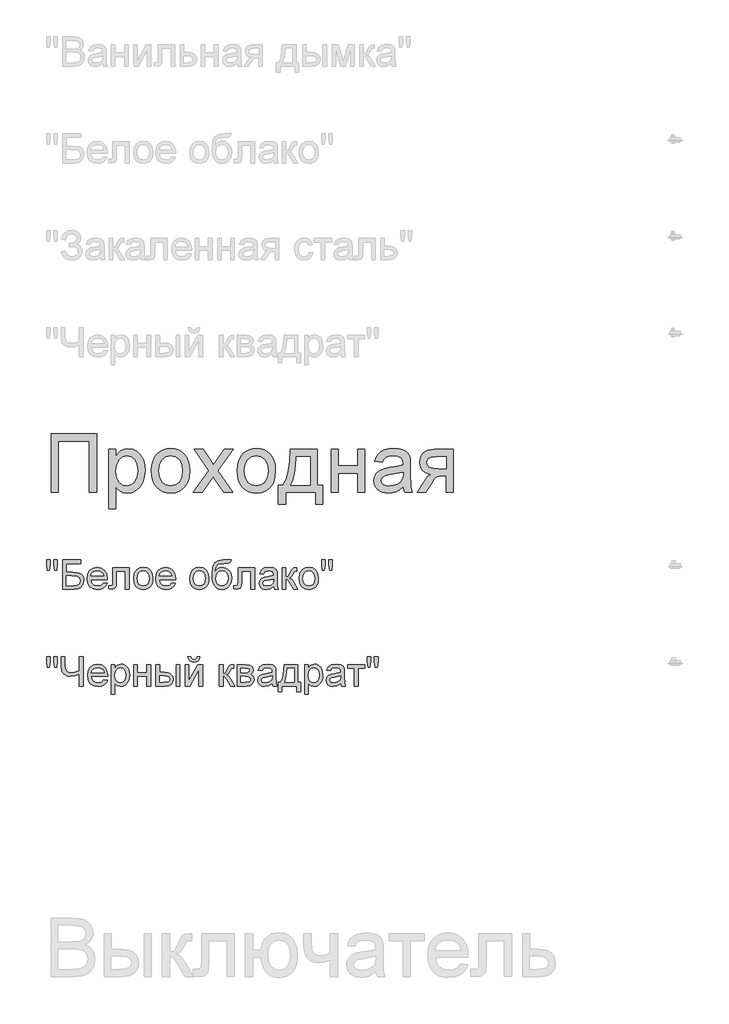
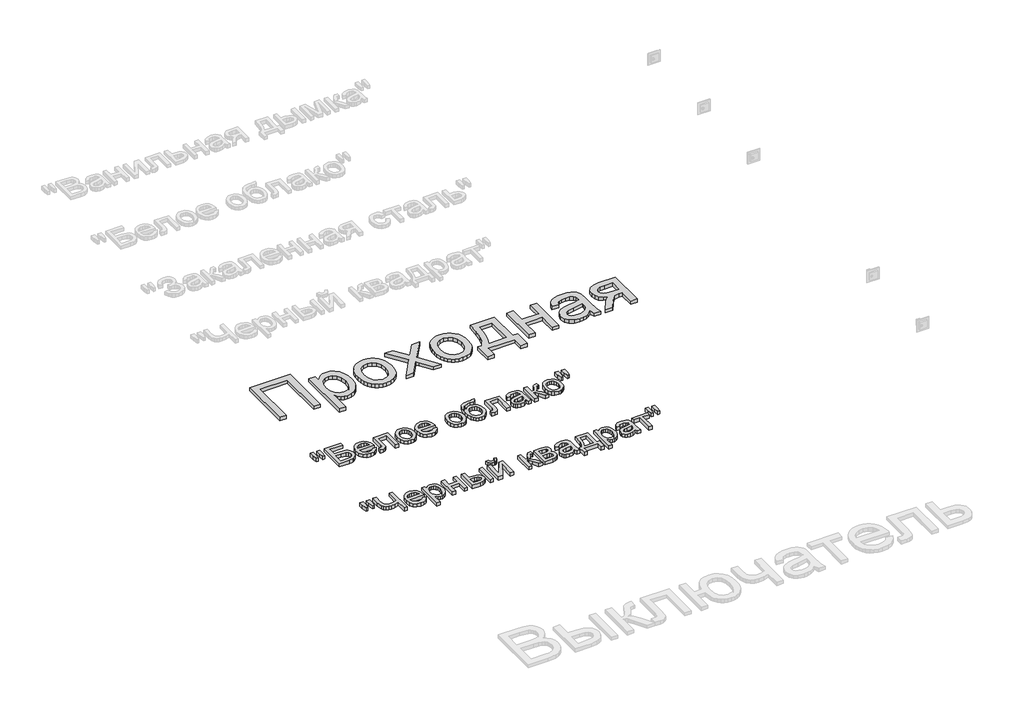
# One storey, part 138 of 168: 3 proxies.
"""IFC4 building model written with IfcOpenShell, lengths in millimetres."""

from ifc_helpers import new_model, si_unit, origin, origin_with_axes, place, context, project, spatial, polyline, outline, extrude, element, save

model = new_model("IFC4")

# Units and contexts
model_context = context("Model", 3, world=origin())
ifc_project = project(units=[si_unit("LENGTHUNIT", "METRE", prefix="MILLI")], contexts=[model_context])

# Site, building, storey
site = spatial("IfcSite", under=ifc_project)
building = spatial("IfcBuilding", under=site)
storey = spatial("IfcBuildingStorey", under=building, Name="Этаж 01", Elevation=0.0)

# Proxies
placement = place(None, origin())
element("IfcBuildingElementProxy", 1, Name="300 мм Arial 2", ObjectType="300 мм Arial 2", at=placement, inside=storey, context=model_context, shape_type="SweptSolid", body=[
    extrude(outline(polyline([(63599.0945017, -17047.0367511), (63834.5389786, -17047.0367511), (63834.5389786, -17348.4056816), (63796.8678623, -17348.4056816), (63796.8678623, -17084.7078674), (63636.765618, -17084.7078674), (63636.765618, -17348.4056816), (63599.0945017, -17348.4056816), (63599.0945017, -17047.0367511)])), origin_with_axes(), (0.0, 0.0, 1.0), 20.0),
    extrude(outline(polyline([(63895.7545426, -17433.1656933), (63895.7545426, -17127.0878733), (63933.4256589, -17127.0878733), (63933.4256589, -17164.0232256), (63945.7129175, -17145.8038698), (63959.4717041, -17132.7900442), (63975.5113591, -17124.9817488), (63994.6412229, -17122.3789837), (64020.117051, -17126.0210155), (64042.3923058, -17136.9471107), (64060.5288882, -17154.4950819), (64073.588699, -17178.0027414), (64081.4797678, -17205.7594379), (64084.1101241, -17236.0545202), (64081.139477, -17268.271786), (64072.2275357, -17297.0861432), (64057.6594086, -17321.0352611), (64037.7202045, -17338.6568087), (64014.4976536, -17349.5001305), (63990.0794861, -17353.1145711), (63972.7614412, -17350.695747), (63957.3012004, -17343.4392746), (63944.0666456, -17332.4855882), (63933.4256589, -17318.975122), (63933.4256589, -17433.1656933), (63895.7545426, -17433.1656933)]), holes=[polyline([(63933.4256589, -17239.512611), (63937.499952, -17273.2841782), (63949.7228313, -17296.9022022), (63967.7582461, -17310.8081417), (63989.2701457, -17315.4434548), (64011.1315333, -17310.6425948), (64029.6268006, -17296.2400147), (64042.235956, -17271.7574679), (64046.4390078, -17236.7167078), (64042.3371235, -17203.1290817), (64030.0314708, -17179.1799638), (64012.0236471, -17164.832566), (63990.8152501, -17160.0501), (63969.5240797, -17165.1360686), (63950.8264772, -17180.3939744), (63937.7758635, -17205.3455707), (63933.4256589, -17239.512611)])]), origin_with_axes(), (0.0, 0.0, 1.0), 20.0),
    extrude(outline(polyline([(64117.0723509, -17237.7467774), (64119.1094974, -17209.0841715), (64125.2209371, -17184.385494), (64135.4066698, -17163.6507451), (64149.6666956, -17146.8799246), (64164.0232905, -17136.160763), (64179.8698074, -17128.504219), (64197.2062465, -17123.9102925), (64216.0326076, -17122.3789837), (64236.815641, -17124.2436856), (64255.6075132, -17129.8377912), (64272.4082241, -17139.1613005), (64287.2177736, -17152.2142135), (64299.3049964, -17168.5550719), (64307.938727, -17187.7424172), (64313.1189654, -17209.7762495), (64314.8457115, -17234.6565687), (64311.7922909, -17272.7139611), (64302.6320292, -17301.6846682), (64287.6316409, -17323.3805088), (64267.0578403, -17339.6133019), (64242.6212788, -17349.7392538), (64216.0326076, -17353.1145711), (64194.9460715, -17351.256767), (64175.9794553, -17345.6833548), (64159.1327592, -17336.3943344), (64144.4059831, -17323.3897059), (64132.447519, -17306.8901984), (64123.9057589, -17287.1165412), (64118.7807029, -17264.0687342), (64117.0723509, -17237.7467774)]), holes=[polyline([(64154.7434672, -17237.673201), (64159.1028688, -17271.7666649), (64172.1810737, -17296.0560737), (64191.8627605, -17310.5966095), (64216.0326076, -17315.4434548), (64240.0920901, -17310.5690184), (64259.7369886, -17295.9457091), (64272.8151935, -17271.3344036), (64277.1745952, -17236.4959786), (64272.7876024, -17203.3957961), (64259.626624, -17179.4374812), (64239.9541343, -17164.8969453), (64216.0326076, -17160.0501), (64191.8627605, -17164.8785512), (64172.1810737, -17179.3639048), (64159.1028688, -17203.5981312), (64154.7434672, -17237.673201)])]), origin_with_axes(), (0.0, 0.0, 1.0), 20.0),
    extrude(outline(polyline([(64333.6812696, -17348.4056816), (64414.1738502, -17237.1581662), (64338.3901592, -17127.0878733), (64383.713221, -17127.0878733), (64420.2806913, -17180.0628806), (64437.3504159, -17205.0788562), (64452.1392721, -17184.6246173), (64493.7835139, -17127.0878733), (64539.1065757, -17127.0878733), (64459.496912, -17237.1581662), (64536.1635198, -17348.4056816), (64490.840458, -17348.4056816), (64444.7080558, -17281.5247348), (64436.2467699, -17269.3110526), (64379.0043314, -17348.4056816), (64333.6812696, -17348.4056816)])), origin_with_axes(), (0.0, 0.0, 1.0), 20.0),
    extrude(outline(polyline([(64559.7079675, -17237.7467774), (64561.745114, -17209.0841715), (64567.8565537, -17184.385494), (64578.0422864, -17163.6507451), (64592.3023122, -17146.8799246), (64606.6589071, -17136.160763), (64622.505424, -17128.504219), (64639.8418631, -17123.9102925), (64658.6682242, -17122.3789837), (64679.4512576, -17124.2436856), (64698.2431298, -17129.8377912), (64715.0438407, -17139.1613005), (64729.8533902, -17152.2142135), (64741.940613, -17168.5550719), (64750.5743436, -17187.7424172), (64755.754582, -17209.7762495), (64757.4813281, -17234.6565687), (64754.4279075, -17272.7139611), (64745.2676458, -17301.6846682), (64730.2672575, -17323.3805088), (64709.6934569, -17339.6133019), (64685.2568954, -17349.7392538), (64658.6682242, -17353.1145711), (64637.5816881, -17351.256767), (64618.6150719, -17345.6833548), (64601.7683758, -17336.3943344), (64587.0415997, -17323.3897059), (64575.0831356, -17306.8901984), (64566.5413755, -17287.1165412), (64561.4163195, -17264.0687342), (64559.7079675, -17237.7467774)]), holes=[polyline([(64597.3790838, -17237.673201), (64601.7384854, -17271.7666649), (64614.8166903, -17296.0560737), (64634.4983771, -17310.5966095), (64658.6682242, -17315.4434548), (64682.7277067, -17310.5690184), (64702.3726052, -17295.9457091), (64715.4508101, -17271.3344036), (64719.8102118, -17236.4959786), (64715.423219, -17203.3957961), (64702.2622406, -17179.4374812), (64682.5897509, -17164.8969453), (64658.6682242, -17160.0501), (64634.4983771, -17164.8785512), (64614.8166903, -17179.3639048), (64601.7384854, -17203.5981312), (64597.3790838, -17237.673201)])]), origin_with_axes(), (0.0, 0.0, 1.0), 20.0),
    extrude(outline(polyline([(64832.8235607, -17127.0878733), (64974.0902468, -17127.0878733), (64974.0902468, -17310.7345653), (65002.3435841, -17310.7345653), (65002.3435841, -17409.6212456), (64964.6724678, -17409.6212456), (64964.6724678, -17348.4056816), (64809.279113, -17348.4056816), (64809.279113, -17409.6212456), (64771.6079967, -17409.6212456), (64771.6079967, -17310.7345653), (64795.1524444, -17310.7345653), (64812.2681542, -17279.8048865), (64824.2519102, -17238.8872116), (64831.1037124, -17187.9815405), (64832.8235607, -17127.0878733)]), holes=[polyline([(64865.7857875, -17164.7589896), (64862.6955787, -17210.8821947), (64856.9566196, -17250.5858591), (64848.5689101, -17283.8699826), (64837.5324502, -17310.7345653), (64936.4191305, -17310.7345653), (64936.4191305, -17164.7589896), (64865.7857875, -17164.7589896)])]), origin_with_axes(), (0.0, 0.0, 1.0), 20.0),
    extrude(outline(polyline([(65044.7235899, -17127.0878733), (65082.3947062, -17127.0878733), (65082.3947062, -17211.847885), (65181.2813865, -17211.847885), (65181.2813865, -17127.0878733), (65218.9525028, -17127.0878733), (65218.9525028, -17348.4056816), (65181.2813865, -17348.4056816), (65181.2813865, -17249.5190013), (65082.3947062, -17249.5190013), (65082.3947062, -17348.4056816), (65044.7235899, -17348.4056816), (65044.7235899, -17127.0878733)])), origin_with_axes(), (0.0, 0.0, 1.0), 20.0),
    extrude(outline(polyline([(65416.7258634, -17320.1523443), (65398.7272368, -17335.584994), (65380.1951813, -17345.6833548), (65360.7066326, -17351.256767), (65339.8385264, -17353.1145711), (65308.3570247, -17348.6448049), (65285.1344738, -17335.2355061), (65270.8146671, -17314.8732377), (65266.0413982, -17289.5445623), (65267.84402, -17273.9279716), (65273.2518853, -17259.7461207), (65281.5936095, -17247.6060149), (65292.1978081, -17238.1146594), (65318.5749471, -17225.7538244), (65351.1692919, -17220.0884417), (65389.6865368, -17214.1287533), (65416.5051342, -17207.1389954), (65416.7258634, -17198.7512859), (65414.1322954, -17181.9390788), (65406.3515912, -17170.9394071), (65388.9507728, -17162.7724268), (65364.7073493, -17160.0501), (65342.2665476, -17161.8619189), (65326.5947746, -17167.2973753), (65315.9078026, -17177.3497509), (65308.421404, -17193.0123268), (65270.7502877, -17188.3034373), (65277.2893902, -17167.7020455), (65287.0474601, -17151.5152378), (65300.9350054, -17139.1360086), (65319.8625341, -17129.9573528), (65343.0115086, -17124.273576), (65369.5633916, -17122.3789837), (65395.0300228, -17124.0528468), (65415.2175472, -17129.074436), (65430.4386648, -17136.625214), (65441.0060751, -17145.8866432), (65448.0142271, -17157.3369703), (65452.5575698, -17171.4544419), (65454.3969797, -17204.4166687), (65454.3969797, -17251.2848348), (65456.3099661, -17316.7310418), (65463.8147588, -17348.4056816), (65426.1436425, -17348.4056816), (65416.7258634, -17320.1523443)]), holes=[polyline([(65416.7258634, -17244.8101117), (65355.9517578, -17256.3616064), (65323.541354, -17262.4684475), (65308.8628624, -17272.4012614), (65303.7125145, -17286.895812), (65306.5176147, -17298.0978187), (65314.9329154, -17307.2764745), (65328.7744754, -17313.4017097), (65347.8583539, -17315.4434548), (65368.0918637, -17313.1901776), (65385.9709286, -17306.4303459), (65400.4654792, -17296.4699409), (65410.5454459, -17284.6149436), (65415.0152121, -17272.4012614), (65416.5051342, -17255.4786896), (65416.7258634, -17244.8101117)])]), origin_with_axes(), (0.0, 0.0, 1.0), 20.0),
    extrude(outline(polyline([(65675.714788, -17127.0878733), (65675.714788, -17348.4056816), (65638.0436717, -17348.4056816), (65638.0436717, -17263.6456699), (65617.5158564, -17263.6456699), (65589.5568248, -17268.4281358), (65578.3916062, -17278.8575904), (65563.2900503, -17300.5810222), (65533.2708795, -17348.4056816), (65489.7136513, -17348.4056816), (65527.5319204, -17287.9258816), (65544.233763, -17266.2208438), (65559.6112304, -17256.5823356), (65533.8594907, -17248.6912668), (65515.7596965, -17233.7000755), (65505.0543305, -17213.7608713), (65501.4858751, -17191.025764), (65506.3603116, -17165.2372362), (65520.9836209, -17144.8197854), (65544.8407682, -17131.5208513), (65577.4167189, -17127.0878733), (65675.714788, -17127.0878733)]), holes=[polyline([(65638.0436717, -17164.7589896), (65588.3796024, -17164.7589896), (65562.7290303, -17166.9386904), (65548.1701003, -17173.4777929), (65541.4102686, -17182.9415572), (65539.1569914, -17193.8952436), (65542.4771264, -17208.2518385), (65552.4375314, -17218.2122435), (65570.8408283, -17224.033976), (65599.4896386, -17225.9745536), (65638.0436717, -17225.9745536), (65638.0436717, -17164.7589896)])]), origin_with_axes(), (0.0, 0.0, 1.0), 20.0),
])
element("IfcBuildingElementProxy", 2, Name="150", ObjectType="150", at=placement, inside=storey, context=model_context, shape_type="SweptSolid", body=[
    extrude(outline(polyline([(63580.1485789, -17751.873446), (63575.550054, -17722.7739802), (63575.550054, -17697.7212163), (63594.3856121, -17697.7212163), (63594.3856121, -17722.7739802), (63590.2653338, -17751.873446), (63580.1485789, -17751.873446)])), origin_with_axes(), (0.0, 0.0, 1.0), 20.0),
    extrude(outline(polyline([(63617.7093306, -17751.873446), (63613.2211703, -17722.7739802), (63613.2211703, -17697.7212163), (63632.0567284, -17697.7212163), (63632.0567284, -17722.7739802), (63627.6421445, -17751.873446), (63617.7093306, -17751.873446)])), origin_with_axes(), (0.0, 0.0, 1.0), 20.0),
    extrude(outline(polyline([(63657.9556209, -17697.7212163), (63752.1334117, -17697.7212163), (63752.1334117, -17716.5567745), (63676.791179, -17716.5567745), (63676.791179, -17761.2912251), (63712.0710624, -17761.2912251), (63743.157091, -17765.1171979), (63753.5589544, -17770.6446248), (63761.6615553, -17779.5749603), (63766.8762826, -17791.0712726), (63768.614525, -17804.2966303), (63763.6665122, -17825.7625448), (63748.8960501, -17842.0781113), (63735.6247071, -17846.823789), (63715.4555767, -17848.4056816), (63657.9556209, -17848.4056816), (63657.9556209, -17697.7212163)]), holes=[polyline([(63676.791179, -17829.5701234), (63717.1478339, -17829.5701234), (63731.4124583, -17828.015822), (63741.6119866, -17823.3529177), (63747.7372218, -17815.5814105), (63749.7789669, -17804.7013005), (63745.1068655, -17789.9492325), (63732.102237, -17782.0765578), (63703.7201411, -17780.1267833), (63676.791179, -17780.1267833), (63676.791179, -17829.5701234)])]), origin_with_axes(), (0.0, 0.0, 1.0), 20.0),
    extrude(outline(polyline([(63869.6349209, -17815.4434548), (63888.1025971, -17817.7978996), (63881.4485315, -17831.713036), (63870.8305374, -17842.1148995), (63856.4877381, -17848.5988196), (63838.6592569, -17850.7601263), (63816.5587461, -17847.0307226), (63799.5534008, -17835.8425114), (63788.710079, -17817.9220597), (63785.0956384, -17793.9959345), (63788.7468672, -17769.2650674), (63799.7005536, -17750.7698), (63816.4759726, -17739.2366995), (63837.5923991, -17735.3923327), (63858.0512366, -17739.2275025), (63874.3989927, -17750.7330118), (63885.1181544, -17769.191491), (63888.6912083, -17793.8855699), (63888.5808437, -17798.9623414), (63803.9311966, -17798.9623414), (63807.1915508, -17813.0614189), (63814.7653213, -17823.4264941), (63825.6960151, -17829.8000497), (63839.0271389, -17831.9245682), (63857.4948151, -17827.9882308), (63869.6349209, -17815.4434548)]), holes=[polyline([(63803.9311966, -17780.1267833), (63869.8556501, -17780.1267833), (63867.3080673, -17770.1755753), (63862.3140692, -17763.0570587), (63851.3327917, -17756.4351828), (63837.5188227, -17754.2278908), (63824.8222954, -17755.9891259), (63814.3238629, -17761.272831), (63807.0260039, -17769.5087892), (63803.9311966, -17780.1267833)])]), origin_with_axes(), (0.0, 0.0, 1.0), 20.0),
    extrude(outline(polyline([(63916.9445455, -17737.7467774), (64001.7045572, -17737.7467774), (64001.7045572, -17848.295317), (63982.868999, -17848.295317), (63982.868999, -17756.5823356), (63935.7801036, -17756.5823356), (63935.7801036, -17809.3734019), (63934.5109108, -17833.72719), (63927.539547, -17844.0094917), (63911.0584336, -17848.4056816), (63895.7545426, -17847.4491884), (63895.7545426, -17829.5701234), (63904.1790403, -17829.5701234), (63912.6955084, -17828.4112951), (63916.0984169, -17824.7324752), (63916.9445455, -17808.3065441), (63916.9445455, -17737.7467774)])), origin_with_axes(), (0.0, 0.0, 1.0), 20.0),
    extrude(outline(polyline([(64025.2490049, -17793.0762295), (64029.323298, -17766.3955878), (64041.5461773, -17747.6428031), (64056.6477332, -17738.4549503), (64074.7291332, -17735.3923327), (64094.516586, -17739.1217364), (64110.3217163, -17750.3099476), (64120.6821929, -17768.0740494), (64124.1356852, -17791.5311251), (64122.6089749, -17810.5598213), (64118.0288441, -17825.0451749), (64110.5286499, -17835.8930952), (64100.2417496, -17844.0094917), (64088.0234688, -17849.0724677), (64074.7291332, -17850.7601263), (64054.7025571, -17847.0445182), (64038.915821, -17835.8976937), (64028.6657089, -17817.7611114), (64025.2490049, -17793.0762295)]), holes=[polyline([(64044.084563, -17793.0394413), (64046.2642638, -17810.0861732), (64052.8033663, -17822.2308776), (64062.6442097, -17829.5011455), (64074.7291332, -17831.9245682), (64086.7588745, -17829.48735), (64096.5813237, -17822.1756953), (64103.1204262, -17809.8700426), (64105.300127, -17792.4508301), (64103.1066306, -17775.9007388), (64096.5261414, -17763.9215814), (64086.6898966, -17756.6513134), (64074.7291332, -17754.2278908), (64062.6442097, -17756.6421164), (64052.8033663, -17763.8847932), (64046.2642638, -17776.0019064), (64044.084563, -17793.0394413)])]), origin_with_axes(), (0.0, 0.0, 1.0), 20.0),
    extrude(outline(polyline([(64222.8016363, -17815.4434548), (64241.2693124, -17817.7978996), (64234.6152469, -17831.713036), (64223.9972528, -17842.1148995), (64209.6544535, -17848.5988196), (64191.8259723, -17850.7601263), (64169.7254614, -17847.0307226), (64152.7201162, -17835.8425114), (64141.8767944, -17817.9220597), (64138.2623538, -17793.9959345), (64141.9135826, -17769.2650674), (64152.867269, -17750.7698), (64169.642688, -17739.2366995), (64190.7591145, -17735.3923327), (64211.217952, -17739.2275025), (64227.5657081, -17750.7330118), (64238.2848698, -17769.191491), (64241.8579236, -17793.8855699), (64241.747559, -17798.9623414), (64157.0979119, -17798.9623414), (64160.3582661, -17813.0614189), (64167.9320367, -17823.4264941), (64178.8627305, -17829.8000497), (64192.1938543, -17831.9245682), (64210.6615304, -17827.9882308), (64222.8016363, -17815.4434548)]), holes=[polyline([(64157.0979119, -17780.1267833), (64223.0223655, -17780.1267833), (64220.4747827, -17770.1755753), (64215.4807846, -17763.0570587), (64204.499507, -17756.4351828), (64190.6855381, -17754.2278908), (64177.9890107, -17755.9891259), (64167.4905783, -17761.272831), (64160.1927192, -17769.5087892), (64157.0979119, -17780.1267833)])]), origin_with_axes(), (0.0, 0.0, 1.0), 20.0),
    extrude(outline(polyline([(64314.8457115, -17793.0762295), (64318.9200046, -17766.3955878), (64331.1428839, -17747.6428031), (64346.2444398, -17738.4549503), (64364.3258398, -17735.3923327), (64384.1132926, -17739.1217364), (64399.9184229, -17750.3099476), (64410.2788995, -17768.0740494), (64413.7323918, -17791.5311251), (64412.2056815, -17810.5598213), (64407.6255507, -17825.0451749), (64400.1253565, -17835.8930952), (64389.8384562, -17844.0094917), (64377.6201754, -17849.0724677), (64364.3258398, -17850.7601263), (64344.2992637, -17847.0445182), (64328.5125276, -17835.8976937), (64318.2624155, -17817.7611114), (64314.8457115, -17793.0762295)]), holes=[polyline([(64333.6812696, -17793.0394413), (64335.8609704, -17810.0861732), (64342.4000729, -17822.2308776), (64352.2409163, -17829.5011455), (64364.3258398, -17831.9245682), (64376.3555811, -17829.48735), (64386.1780303, -17822.1756953), (64392.7171328, -17809.8700426), (64394.8968336, -17792.4508301), (64392.7033372, -17775.9007388), (64386.122848, -17763.9215814), (64376.2866032, -17756.6513134), (64364.3258398, -17754.2278908), (64352.2409163, -17756.6421164), (64342.4000729, -17763.8847932), (64335.8609704, -17776.0019064), (64333.6812696, -17793.0394413)])]), origin_with_axes(), (0.0, 0.0, 1.0), 20.0),
    extrude(outline(polyline([(64512.6190721, -17695.3667716), (64529.1001855, -17695.3667716), (64524.2441431, -17710.0636573), (64514.6424231, -17715.3795521), (64491.576222, -17716.5567745), (64460.5085875, -17720.897782), (64453.3808738, -17726.5447707), (64448.5892108, -17734.8037215), (64444.560903, -17759.4150269), (64460.8764695, -17741.3888092), (64470.7954878, -17736.8914518), (64481.9009255, -17735.3923327), (64501.4998388, -17739.2045098), (64517.401538, -17750.6410414), (64527.9413572, -17768.5798871), (64531.4546302, -17791.8990071), (64529.7117893, -17809.8792396), (64524.4832664, -17824.3094109), (64507.9469707, -17843.8623389), (64496.6529935, -17849.0356795), (64481.9009255, -17850.7601263), (64464.9001788, -17848.5390388), (64452.1576662, -17841.8757762), (64442.7812738, -17831.7498242), (64435.8788879, -17819.1406689), (64431.6298508, -17800.1533594), (64430.2135052, -17770.8929452), (64433.786559, -17734.7531377), (64444.5057207, -17712.7124076), (64462.6377045, -17701.4690142), (64488.449225, -17697.7212163), (64509.4184987, -17697.2981521), (64512.6190721, -17695.3667716)]), holes=[polyline([(64512.6190721, -17791.3103959), (64510.577327, -17776.48935), (64504.4520918, -17764.6205572), (64494.6112484, -17756.8260574), (64481.4226789, -17754.2278908), (64467.6730893, -17756.9732102), (64457.473561, -17765.2091684), (64451.1551877, -17778.0344544), (64449.0490633, -17794.5477575), (64451.3759169, -17810.5552228), (64458.3564778, -17822.304454), (64468.7491442, -17829.5195396), (64481.3123143, -17831.9245682), (64493.9398638, -17829.1424606), (64503.937057, -17820.7961378), (64510.4485683, -17807.8604872), (64512.6190721, -17791.3103959)])]), origin_with_axes(), (0.0, 0.0, 1.0), 20.0),
    extrude(outline(polyline([(64564.416857, -17737.7467774), (64649.1768687, -17737.7467774), (64649.1768687, -17848.295317), (64630.3413105, -17848.295317), (64630.3413105, -17756.5823356), (64583.2524152, -17756.5823356), (64583.2524152, -17809.3734019), (64581.9832223, -17833.72719), (64575.0118585, -17844.0094917), (64558.5307451, -17848.4056816), (64543.2268541, -17847.4491884), (64543.2268541, -17829.5701234), (64551.6513518, -17829.5701234), (64560.16782, -17828.4112951), (64563.5707284, -17824.7324752), (64564.416857, -17808.3065441), (64564.416857, -17737.7467774)])), origin_with_axes(), (0.0, 0.0, 1.0), 20.0),
    extrude(outline(polyline([(64748.063549, -17834.279013), (64729.7982079, -17847.0445182), (64709.6198805, -17850.7601263), (64693.8791296, -17848.5252432), (64682.2678542, -17841.8205939), (64675.1079508, -17831.6394596), (64672.7213164, -17818.975122), (64676.3265599, -17804.0759012), (64685.7995213, -17793.2601705), (64698.9880908, -17787.079753), (64715.2852632, -17784.2470616), (64747.9531844, -17777.7723385), (64748.063549, -17773.5784838), (64746.766765, -17765.1723802), (64742.8764129, -17759.6725443), (64734.1760037, -17755.5890542), (64722.0542919, -17754.2278908), (64702.9980046, -17757.8515285), (64693.9113193, -17770.7090042), (64675.0757612, -17768.3545594), (64683.2243473, -17749.9604597), (64699.6318843, -17739.1815172), (64724.4823131, -17735.3923327), (64747.3093909, -17738.7400588), (64760.2036548, -17747.1461624), (64765.9794022, -17759.9300617), (64766.8991071, -17776.4111751), (64766.8991071, -17799.8452582), (64767.8556003, -17832.5683617), (64771.6079967, -17848.4056816), (64752.7724385, -17848.4056816), (64748.063549, -17834.279013)]), holes=[polyline([(64748.063549, -17796.6078966), (64717.6764962, -17802.383644), (64701.4712943, -17805.4370645), (64694.1320485, -17810.4034715), (64691.5568745, -17817.6507468), (64697.167075, -17827.841078), (64713.6297942, -17831.9245682), (64732.6860816, -17827.4180137), (64744.9733402, -17816.5103126), (64747.9531844, -17801.9421856), (64748.063549, -17796.6078966)])]), origin_with_axes(), (0.0, 0.0, 1.0), 20.0),
    extrude(outline(polyline([(64792.7979996, -17737.7467774), (64811.6335578, -17737.7467774), (64811.6335578, -17784.8356728), (64824.2519102, -17781.4511584), (64834.5893943, -17761.7326835), (64843.1794388, -17744.7181412), (64850.7578079, -17739.1815172), (64864.5349887, -17737.7467774), (64868.1402322, -17737.7467774), (64868.1402322, -17756.6927002), (64863.0634607, -17756.5823356), (64853.8664108, -17758.5688983), (64847.3916877, -17770.9665216), (64839.7949245, -17784.3758203), (64829.1447407, -17790.9425139), (64841.0273292, -17798.2725627), (64852.6891884, -17813.7144094), (64872.8491218, -17848.4056816), (64851.4383896, -17848.4056816), (64831.6831265, -17814.4501734), (64821.7503126, -17800.0843815), (64811.6335578, -17796.6078966), (64811.6335578, -17848.4056816), (64792.7979996, -17848.4056816), (64792.7979996, -17737.7467774)])), origin_with_axes(), (0.0, 0.0, 1.0), 20.0),
    extrude(outline(polyline([(64879.9124561, -17793.0762295), (64883.9867492, -17766.3955878), (64896.2096285, -17747.6428031), (64911.3111844, -17738.4549503), (64929.3925844, -17735.3923327), (64949.1800372, -17739.1217364), (64964.9851674, -17750.3099476), (64975.3456441, -17768.0740494), (64978.7991364, -17791.5311251), (64977.2724261, -17810.5598213), (64972.6922952, -17825.0451749), (64965.1921011, -17835.8930952), (64954.9052008, -17844.0094917), (64942.68692, -17849.0724677), (64929.3925844, -17850.7601263), (64909.3660083, -17847.0445182), (64893.5792722, -17835.8976937), (64883.3291601, -17817.7611114), (64879.9124561, -17793.0762295)]), holes=[polyline([(64898.7480142, -17793.0394413), (64900.927715, -17810.0861732), (64907.4668175, -17822.2308776), (64917.3076609, -17829.5011455), (64929.3925844, -17831.9245682), (64941.4223257, -17829.48735), (64951.2447749, -17822.1756953), (64957.7838774, -17809.8700426), (64959.9635782, -17792.4508301), (64957.7700818, -17775.9007388), (64951.1895926, -17763.9215814), (64941.3533478, -17756.6513134), (64929.3925844, -17754.2278908), (64917.3076609, -17756.6421164), (64907.4668175, -17763.8847932), (64900.927715, -17776.0019064), (64898.7480142, -17793.0394413)])]), origin_with_axes(), (0.0, 0.0, 1.0), 20.0),
    extrude(outline(polyline([(64999.8787747, -17751.873446), (64995.2802498, -17722.7739802), (64995.2802498, -17697.7212163), (65014.1158079, -17697.7212163), (65014.1158079, -17722.7739802), (65009.9955296, -17751.873446), (64999.8787747, -17751.873446)])), origin_with_axes(), (0.0, 0.0, 1.0), 20.0),
    extrude(outline(polyline([(65037.4395264, -17751.873446), (65032.9513661, -17722.7739802), (65032.9513661, -17697.7212163), (65051.7869242, -17697.7212163), (65051.7869242, -17722.7739802), (65047.3723403, -17751.873446), (65037.4395264, -17751.873446)])), origin_with_axes(), (0.0, 0.0, 1.0), 20.0),
])
element("IfcBuildingElementProxy", 3, Name="150", ObjectType="150", at=placement, inside=storey, context=model_context, shape_type="SweptSolid", body=[
    extrude(outline(polyline([(63580.1485789, -18251.873446), (63575.550054, -18222.7739802), (63575.550054, -18197.7212163), (63594.3856121, -18197.7212163), (63594.3856121, -18222.7739802), (63590.2653338, -18251.873446), (63580.1485789, -18251.873446)])), origin_with_axes(), (0.0, 0.0, 1.0), 20.0),
    extrude(outline(polyline([(63617.7093306, -18251.873446), (63613.2211703, -18222.7739802), (63613.2211703, -18197.7212163), (63632.0567284, -18197.7212163), (63632.0567284, -18222.7739802), (63627.6421445, -18251.873446), (63617.7093306, -18251.873446)])), origin_with_axes(), (0.0, 0.0, 1.0), 20.0),
    extrude(outline(polyline([(63763.9056355, -18348.4056816), (63745.0700773, -18348.4056816), (63745.0700773, -18288.0730344), (63720.0908899, -18296.2400147), (63698.4226404, -18298.9623414), (63683.7395502, -18297.0999388), (63670.886673, -18291.512731), (63660.926268, -18283.0606422), (63654.9205944, -18272.6035965), (63650.8922866, -18242.6028198), (63650.8922866, -18197.7212163), (63669.7278447, -18197.7212163), (63669.7278447, -18240.064434), (63671.990319, -18260.4313009), (63678.7777418, -18272.3828673), (63688.7381468, -18278.1908043), (63700.5195677, -18280.1267833), (63722.2521966, -18277.7907326), (63745.0700773, -18270.7825806), (63745.0700773, -18197.7212163), (63763.9056355, -18197.7212163), (63763.9056355, -18348.4056816)])), origin_with_axes(), (0.0, 0.0, 1.0), 20.0),
    extrude(outline(polyline([(63871.9893657, -18315.4434548), (63890.4570418, -18317.7978996), (63883.8029763, -18331.713036), (63873.1849822, -18342.1148995), (63858.8421829, -18348.5988196), (63841.0137017, -18350.7601263), (63818.9131908, -18347.0307226), (63801.9078456, -18335.8425114), (63791.0645238, -18317.9220597), (63787.4500832, -18293.9959345), (63791.101312, -18269.2650674), (63802.0549984, -18250.7698), (63818.8304174, -18239.2366995), (63839.9468439, -18235.3923327), (63860.4056814, -18239.2275025), (63876.7534375, -18250.7330118), (63887.4725992, -18269.191491), (63891.045653, -18293.8855699), (63890.9352884, -18298.9623414), (63806.2856413, -18298.9623414), (63809.5459955, -18313.0614189), (63817.1197661, -18323.4264941), (63828.0504599, -18329.8000497), (63841.3815837, -18331.9245682), (63859.8492598, -18327.9882308), (63871.9893657, -18315.4434548)]), holes=[polyline([(63806.2856413, -18280.1267833), (63872.2100949, -18280.1267833), (63869.6625121, -18270.1755753), (63864.668514, -18263.0570587), (63853.6872364, -18256.4351828), (63839.8732675, -18254.2278908), (63827.1767401, -18255.9891259), (63816.6783077, -18261.272831), (63809.3804486, -18269.5087892), (63806.2856413, -18280.1267833)])]), origin_with_axes(), (0.0, 0.0, 1.0), 20.0),
    extrude(outline(polyline([(63909.8812112, -18390.7856874), (63909.8812112, -18237.7467774), (63928.7167693, -18237.7467774), (63928.7167693, -18256.2144536), (63941.739792, -18240.5978629), (63959.3245513, -18235.3923327), (63972.0624654, -18237.2133485), (63983.2000928, -18242.6763962), (63992.268384, -18251.4503817), (63998.7982894, -18263.2042115), (64004.0590019, -18292.2301009), (64002.5736784, -18308.3387338), (63998.1177077, -18322.7459124), (63990.8336442, -18334.7204713), (63980.8640422, -18343.5312451), (63969.2527667, -18348.952906), (63957.043683, -18350.7601263), (63940.6545401, -18345.9224781), (63928.7167693, -18333.6904018), (63928.7167693, -18390.7856874), (63909.8812112, -18390.7856874)]), holes=[polyline([(63928.7167693, -18293.9591463), (63930.7539159, -18310.8449299), (63936.8653555, -18322.6539419), (63945.8830629, -18329.6069116), (63956.6390128, -18331.9245682), (63967.5697066, -18329.5241382), (63976.8173402, -18322.3228481), (63983.1219179, -18310.0815747), (63985.2234438, -18292.5611947), (63983.1725017, -18275.7673816), (63977.0196753, -18263.7928227), (63968.0157635, -18256.6191238), (63957.411565, -18254.2278908), (63946.7659797, -18256.7708751), (63937.4171785, -18264.399828), (63930.8918716, -18276.8756261), (63928.7167693, -18293.9591463)])]), origin_with_axes(), (0.0, 0.0, 1.0), 20.0),
    extrude(outline(polyline([(64025.2490049, -18237.7467774), (64044.084563, -18237.7467774), (64044.084563, -18280.1267833), (64093.5279032, -18280.1267833), (64093.5279032, -18237.7467774), (64112.3634613, -18237.7467774), (64112.3634613, -18348.4056816), (64093.5279032, -18348.4056816), (64093.5279032, -18298.9623414), (64044.084563, -18298.9623414), (64044.084563, -18348.4056816), (64025.2490049, -18348.4056816), (64025.2490049, -18237.7467774)])), origin_with_axes(), (0.0, 0.0, 1.0), 20.0),
    extrude(outline(polyline([(64244.2123684, -18237.7467774), (64263.0479266, -18237.7467774), (64263.0479266, -18348.4056816), (64244.2123684, -18348.4056816), (64244.2123684, -18237.7467774)])), origin_with_axes(), (0.0, 0.0, 1.0), 20.0),
    extrude(outline(polyline([(64140.6167986, -18237.7467774), (64159.4523567, -18237.7467774), (64159.4523567, -18277.7723385), (64182.739287, -18277.7723385), (64202.8670307, -18280.1313818), (64217.780047, -18287.2085117), (64227.0092866, -18298.433511), (64230.0856998, -18313.2361628), (64227.5059273, -18326.7144394), (64219.7666098, -18338.0865916), (64206.3619096, -18345.8259091), (64186.785989, -18348.4056816), (64140.6167986, -18348.4056816), (64140.6167986, -18237.7467774)]), holes=[polyline([(64159.4523567, -18329.5701234), (64178.8029497, -18329.5701234), (64203.7821371, -18325.615392), (64209.3831405, -18320.552416), (64211.2501416, -18313.272951), (64205.7135176, -18301.6846682), (64196.8337659, -18297.8770895), (64181.267759, -18296.6078966), (64159.4523567, -18296.6078966), (64159.4523567, -18329.5701234)])]), origin_with_axes(), (0.0, 0.0, 1.0), 20.0),
    extrude(outline(polyline([(64291.3012638, -18237.7467774), (64310.1368219, -18237.7467774), (64310.1368219, -18322.1389071), (64356.4163769, -18237.7467774), (64380.770165, -18237.7467774), (64380.770165, -18348.4056816), (64361.9346069, -18348.4056816), (64361.9346069, -18264.5285867), (64315.9493575, -18348.4056816), (64291.3012638, -18348.4056816), (64291.3012638, -18237.7467774)])), origin_with_axes(), (0.0, 0.0, 1.0), 20.0),
    extrude(outline(polyline([(64352.5168278, -18197.7212163), (64366.6434964, -18197.7212163), (64363.6038714, -18209.7831473), (64357.5016288, -18218.672096), (64348.6126801, -18224.1489392), (64337.2129368, -18225.9745536), (64324.8429047, -18224.1627347), (64315.2503817, -18218.7272783), (64308.6928851, -18209.8521251), (64305.4279324, -18197.7212163), (64319.554601, -18197.7212163), (64324.8521017, -18208.3346119), (64335.5206796, -18211.847885), (64347.219327, -18208.4449765), (64352.5168278, -18197.7212163)])), origin_with_axes(), (0.0, 0.0, 1.0), 20.0),
    extrude(outline(polyline([(64467.8846215, -18237.7467774), (64486.7201796, -18237.7467774), (64486.7201796, -18284.8356728), (64499.3385321, -18281.4511584), (64509.6760161, -18261.7326835), (64518.2660607, -18244.7181412), (64525.8444298, -18239.1815172), (64539.6216105, -18237.7467774), (64543.2268541, -18237.7467774), (64543.2268541, -18256.6927002), (64538.1500825, -18256.5823356), (64528.9530327, -18258.5688983), (64522.4783096, -18270.9665216), (64514.8815464, -18284.3758203), (64504.2313626, -18290.9425139), (64516.113951, -18298.2725627), (64527.7758103, -18313.7144094), (64547.9357436, -18348.4056816), (64526.5250115, -18348.4056816), (64506.7697484, -18314.4501734), (64496.8369345, -18300.0843815), (64486.7201796, -18296.6078966), (64486.7201796, -18348.4056816), (64467.8846215, -18348.4056816), (64467.8846215, -18237.7467774)])), origin_with_axes(), (0.0, 0.0, 1.0), 20.0),
    extrude(outline(polyline([(64559.7079675, -18237.7467774), (64601.2050565, -18237.7467774), (64623.9585579, -18240.2667691), (64636.7608514, -18249.5006072), (64642.1135344, -18265.5954445), (64638.8761728, -18278.6736494), (64629.1273, -18287.999458), (64641.7824406, -18298.2081833), (64646.8224239, -18315.9584896), (64643.6310476, -18330.3150845), (64636.0434815, -18340.4226423), (64624.0321343, -18346.4099217), (64607.569415, -18348.4056816), (64559.7079675, -18348.4056816), (64559.7079675, -18237.7467774)]), holes=[polyline([(64578.5435256, -18280.1267833), (64597.1583546, -18280.1267833), (64612.5174279, -18279.1702901), (64619.9854324, -18275.3443173), (64623.2779762, -18268.4281358), (64621.8340394, -18262.8087383), (64617.5022289, -18259.1942977), (64597.7469658, -18256.5823356), (64578.5435256, -18256.5823356), (64578.5435256, -18280.1267833)]), polyline([(64578.5435256, -18329.5701234), (64601.6465149, -18329.5701234), (64622.137542, -18326.167215), (64626.377382, -18321.5273033), (64627.9868658, -18314.4133852), (64624.7678983, -18305.345094), (64616.3801888, -18300.0659874), (64599.8071049, -18298.9623414), (64578.5435256, -18298.9623414), (64578.5435256, -18329.5701234)])]), origin_with_axes(), (0.0, 0.0, 1.0), 20.0),
    extrude(outline(polyline([(64741.0002147, -18334.279013), (64722.7348736, -18347.0445182), (64702.5565462, -18350.7601263), (64686.8157953, -18348.5252432), (64675.2045198, -18341.8205939), (64668.0446165, -18331.6394596), (64665.6579821, -18318.975122), (64669.2632256, -18304.0759012), (64678.736187, -18293.2601705), (64691.9247565, -18287.079753), (64708.2219289, -18284.2470616), (64740.8898501, -18277.7723385), (64741.0002147, -18273.5784838), (64739.7034307, -18265.1723802), (64735.8130786, -18259.6725443), (64727.1126694, -18255.5890542), (64714.9909576, -18254.2278908), (64695.9346703, -18257.8515285), (64686.847985, -18270.7090042), (64668.0124268, -18268.3545594), (64676.161013, -18249.9604597), (64692.56855, -18239.1815172), (64717.4189788, -18235.3923327), (64740.2460566, -18238.7400588), (64753.1403205, -18247.1461624), (64758.9160679, -18259.9300617), (64759.8357728, -18276.4111751), (64759.8357728, -18299.8452582), (64760.792266, -18332.5683617), (64764.5446624, -18348.4056816), (64745.7091042, -18348.4056816), (64741.0002147, -18334.279013)]), holes=[polyline([(64741.0002147, -18296.6078966), (64710.6131619, -18302.383644), (64694.40796, -18305.4370645), (64687.0687142, -18310.4034715), (64684.4935402, -18317.6507468), (64690.1037407, -18327.841078), (64706.5664599, -18331.9245682), (64725.6227473, -18327.4180137), (64737.9100059, -18316.5103126), (64740.8898501, -18301.9421856), (64741.0002147, -18296.6078966)])]), origin_with_axes(), (0.0, 0.0, 1.0), 20.0),
    extrude(outline(polyline([(64802.2157787, -18237.7467774), (64872.8491218, -18237.7467774), (64872.8491218, -18329.5701234), (64886.9757904, -18329.5701234), (64886.9757904, -18379.0134636), (64868.1402322, -18379.0134636), (64868.1402322, -18348.4056816), (64790.4435548, -18348.4056816), (64790.4435548, -18379.0134636), (64771.6079967, -18379.0134636), (64771.6079967, -18329.5701234), (64783.3802205, -18329.5701234), (64791.9380754, -18314.105284), (64797.9299534, -18293.6464466), (64802.2157787, -18237.7467774)]), holes=[polyline([(64818.6968921, -18256.5823356), (64814.2823081, -18299.4957703), (64804.5702235, -18329.5701234), (64854.0135636, -18329.5701234), (64854.0135636, -18256.5823356), (64818.6968921, -18256.5823356)])]), origin_with_axes(), (0.0, 0.0, 1.0), 20.0),
    extrude(outline(polyline([(64908.1657933, -18390.7856874), (64908.1657933, -18237.7467774), (64927.0013514, -18237.7467774), (64927.0013514, -18256.2144536), (64940.0243741, -18240.5978629), (64957.6091334, -18235.3923327), (64970.3470475, -18237.2133485), (64981.4846749, -18242.6763962), (64990.5529661, -18251.4503817), (64997.0828715, -18263.2042115), (65002.3435841, -18292.2301009), (65000.8582605, -18308.3387338), (64996.4022898, -18322.7459124), (64989.1182263, -18334.7204713), (64979.1486243, -18343.5312451), (64967.5373488, -18348.952906), (64955.3282651, -18350.7601263), (64938.9391222, -18345.9224781), (64927.0013514, -18333.6904018), (64927.0013514, -18390.7856874), (64908.1657933, -18390.7856874)]), holes=[polyline([(64927.0013514, -18293.9591463), (64929.038498, -18310.8449299), (64935.1499376, -18322.6539419), (64944.167645, -18329.6069116), (64954.9235949, -18331.9245682), (64965.8542887, -18329.5241382), (64975.1019223, -18322.3228481), (64981.4065, -18310.0815747), (64983.5080259, -18292.5611947), (64981.4570838, -18275.7673816), (64975.3042574, -18263.7928227), (64966.3003456, -18256.6191238), (64955.6961471, -18254.2278908), (64945.0505618, -18256.7708751), (64935.7017606, -18264.399828), (64929.1764537, -18276.8756261), (64927.0013514, -18293.9591463)])]), origin_with_axes(), (0.0, 0.0, 1.0), 20.0),
    extrude(outline(polyline([(65094.1669301, -18334.279013), (65075.901589, -18347.0445182), (65055.7232616, -18350.7601263), (65039.9825107, -18348.5252432), (65028.3712352, -18341.8205939), (65021.2113319, -18331.6394596), (65018.8246974, -18318.975122), (65022.429941, -18304.0759012), (65031.9029024, -18293.2601705), (65045.0914719, -18287.079753), (65061.3886443, -18284.2470616), (65094.0565655, -18277.7723385), (65094.1669301, -18273.5784838), (65092.870146, -18265.1723802), (65088.9797939, -18259.6725443), (65080.2793847, -18255.5890542), (65068.157673, -18254.2278908), (65049.1013856, -18257.8515285), (65040.0147004, -18270.7090042), (65021.1791422, -18268.3545594), (65029.3277284, -18249.9604597), (65045.7352654, -18239.1815172), (65070.5856942, -18235.3923327), (65093.412772, -18238.7400588), (65106.3070359, -18247.1461624), (65112.0827832, -18259.9300617), (65113.0024882, -18276.4111751), (65113.0024882, -18299.8452582), (65113.9589814, -18332.5683617), (65117.7113777, -18348.4056816), (65098.8758196, -18348.4056816), (65094.1669301, -18334.279013)]), holes=[polyline([(65094.1669301, -18296.6078966), (65063.7798773, -18302.383644), (65047.5746754, -18305.4370645), (65040.2354296, -18310.4034715), (65037.6602556, -18317.6507468), (65043.270456, -18327.841078), (65059.7331753, -18331.9245682), (65078.7894627, -18327.4180137), (65091.0767213, -18316.5103126), (65094.0565655, -18301.9421856), (65094.1669301, -18296.6078966)])]), origin_with_axes(), (0.0, 0.0, 1.0), 20.0),
    extrude(outline(polyline([(65129.4836016, -18237.7467774), (65218.9525028, -18237.7467774), (65218.9525028, -18256.5823356), (65183.6358313, -18256.5823356), (65183.6358313, -18348.4056816), (65164.8002731, -18348.4056816), (65164.8002731, -18256.5823356), (65129.4836016, -18256.5823356), (65129.4836016, -18237.7467774)])), origin_with_axes(), (0.0, 0.0, 1.0), 20.0),
    extrude(outline(polyline([(65235.3232516, -18251.873446), (65230.7247267, -18222.7739802), (65230.7247267, -18197.7212163), (65249.5602848, -18197.7212163), (65249.5602848, -18222.7739802), (65245.4400065, -18251.873446), (65235.3232516, -18251.873446)])), origin_with_axes(), (0.0, 0.0, 1.0), 20.0),
    extrude(outline(polyline([(65272.8840033, -18251.873446), (65268.395843, -18222.7739802), (65268.395843, -18197.7212163), (65287.2314011, -18197.7212163), (65287.2314011, -18222.7739802), (65282.8168172, -18251.873446), (65272.8840033, -18251.873446)])), origin_with_axes(), (0.0, 0.0, 1.0), 20.0),
])

save(model, "model.ifc")
